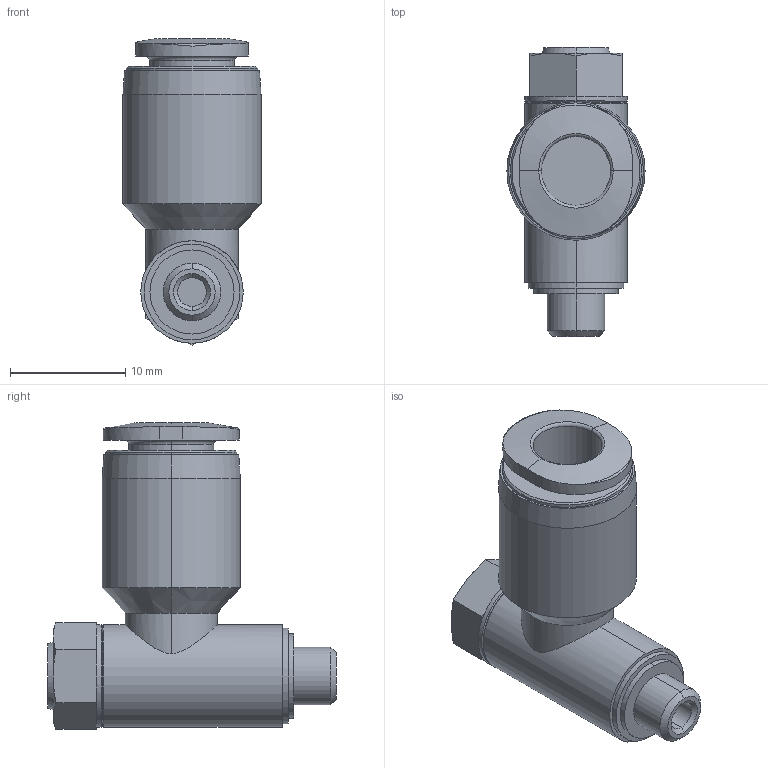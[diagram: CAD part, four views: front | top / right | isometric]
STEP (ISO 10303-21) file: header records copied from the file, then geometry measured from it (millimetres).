
FILE_DESCRIPTION (( 'STEP AP203' ), '1' );
FILE_NAME ('14010006.STEP', '2016-11-16T16:43:55', ( '' ), ( '' ), 'SwSTEP 2.0', 'SolidWorks 2015', '' );
FILE_SCHEMA (( 'CONFIG_CONTROL_DESIGN' ));
Length unit declared in the file: millimetre
Products named in the file (1): 14010006
Bounding box: 12 x 25.1 x 26.61 mm (x, y, z)
Volume: 2685.4 mm3; surface area: 1878 mm2
Topology: 1 solids, 1 shells, 96 faces, 209 edges, 125 vertices
Faces by surface type: plane 37, cone 27, cylinder 26, torus 6
Entity records: 2825 total; most frequent: CARTESIAN_POINT 633, DIRECTION 468, ORIENTED_EDGE 418, EDGE_CURVE 209, AXIS2_PLACEMENT_3D 190, VERTEX_POINT 125, EDGE_LOOP 106, ADVANCED_FACE 96
